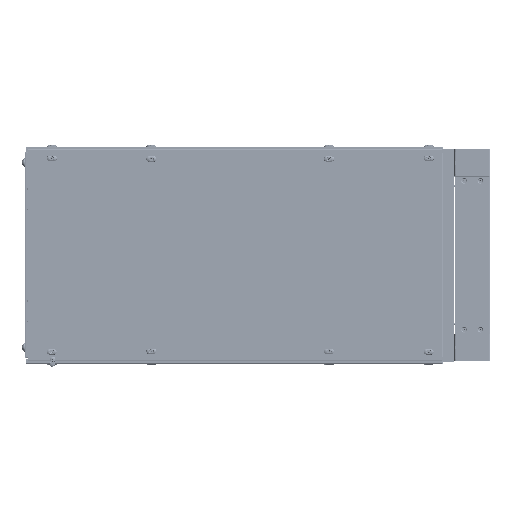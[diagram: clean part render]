
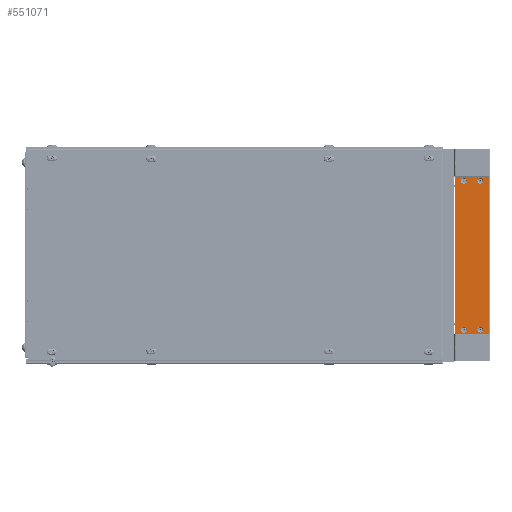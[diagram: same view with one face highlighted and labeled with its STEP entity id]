
A CAD part, left-side view. The second image highlights one B-rep face of the part: STEP entity #551071.
In plain terms, the highlighted planar face has unit normal (-1, 0, 0) as drawn and (0, -1, 0) by its records, which use the part's own axes.
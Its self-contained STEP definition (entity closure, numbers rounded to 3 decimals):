
#5371 = EDGE_LOOP ( 'NONE', ( #432263, #157245 ) ) ;
#10639 = VERTEX_POINT ( 'NONE', #167506 ) ;
#10795 = CIRCLE ( 'NONE', #638047, 8.743 ) ;
#12759 = VECTOR ( 'NONE', #634859, 1000. ) ;
#22331 = CARTESIAN_POINT ( 'NONE',  ( 441.04, 0., 0. ) ) ;
#27080 = EDGE_CURVE ( 'NONE', #10639, #395703, #502383, .T. ) ;
#41246 = FACE_OUTER_BOUND ( 'NONE', #349824, .T. ) ;
#41895 = DIRECTION ( 'NONE',  ( -1., 0., 0. ) ) ;
#43073 = DIRECTION ( 'NONE',  ( 0., 0., 1. ) ) ;
#44680 = DIRECTION ( 'NONE',  ( 1., 0., 0. ) ) ;
#46625 = ORIENTED_EDGE ( 'NONE', *, *, #107949, .F. ) ;
#49188 = VERTEX_POINT ( 'NONE', #139219 ) ;
#71023 = VERTEX_POINT ( 'NONE', #308824 ) ;
#80626 = AXIS2_PLACEMENT_3D ( 'NONE', #89073, #356572, #451566 ) ;
#82364 = EDGE_CURVE ( 'NONE', #506431, #49188, #588758, .T. ) ;
#86003 = ORIENTED_EDGE ( 'NONE', *, *, #489209, .F. ) ;
#87710 = DIRECTION ( 'NONE',  ( 0., 0., -1. ) ) ;
#89073 = CARTESIAN_POINT ( 'NONE',  ( 430.015, 0., -71.25 ) ) ;
#98815 = DIRECTION ( 'NONE',  ( 0., 0., -1. ) ) ;
#107949 = EDGE_CURVE ( 'NONE', #387935, #247869, #512173, .T. ) ;
#110319 = CIRCLE ( 'NONE', #651491, 8.743 ) ;
#114301 = ORIENTED_EDGE ( 'NONE', *, *, #311408, .F. ) ;
#124664 = EDGE_LOOP ( 'NONE', ( #238864, #432485 ) ) ;
#131891 = CARTESIAN_POINT ( 'NONE',  ( 11.025, 0., -71.25 ) ) ;
#133057 = LINE ( 'NONE', #593815, #603946 ) ;
#139219 = CARTESIAN_POINT ( 'NONE',  ( 430.015, 0., -33.496 ) ) ;
#153006 = CARTESIAN_POINT ( 'NONE',  ( 0., 0., 0. ) ) ;
#157245 = ORIENTED_EDGE ( 'NONE', *, *, #231957, .F. ) ;
#167506 = CARTESIAN_POINT ( 'NONE',  ( 430.015, 0., -79.993 ) ) ;
#189646 = ORIENTED_EDGE ( 'NONE', *, *, #528181, .F. ) ;
#194597 = EDGE_CURVE ( 'NONE', #634578, #602993, #238547, .T. ) ;
#211162 = VERTEX_POINT ( 'NONE', #385614 ) ;
#212721 = EDGE_CURVE ( 'NONE', #71023, #211162, #637643, .T. ) ;
#231957 = EDGE_CURVE ( 'NONE', #602993, #634578, #561821, .T. ) ;
#234654 = DIRECTION ( 'NONE',  ( 0., 0., -1. ) ) ;
#238547 = CIRCLE ( 'NONE', #638993, 8.246 ) ;
#238864 = ORIENTED_EDGE ( 'NONE', *, *, #82364, .F. ) ;
#239687 = CARTESIAN_POINT ( 'NONE',  ( 430.015, 0., -25.25 ) ) ;
#241526 = DIRECTION ( 'NONE',  ( 0., 0., 1. ) ) ;
#247869 = VERTEX_POINT ( 'NONE', #22331 ) ;
#247901 = FACE_BOUND ( 'NONE', #5371, .T. ) ;
#249385 = CARTESIAN_POINT ( 'NONE',  ( 0., 0., -96.5 ) ) ;
#261288 = PLANE ( 'NONE',  #428720 ) ;
#284076 = CARTESIAN_POINT ( 'NONE',  ( 430.015, 0., -17.004 ) ) ;
#284274 = VECTOR ( 'NONE', #44680, 1000. ) ;
#285029 = CARTESIAN_POINT ( 'NONE',  ( 11.025, 0., -25.25 ) ) ;
#296725 = AXIS2_PLACEMENT_3D ( 'NONE', #239687, #392235, #43073 ) ;
#298756 = CARTESIAN_POINT ( 'NONE',  ( 0., 0., -96.5 ) ) ;
#308819 = FACE_BOUND ( 'NONE', #124664, .T. ) ;
#308824 = CARTESIAN_POINT ( 'NONE',  ( 11.025, 0., -79.993 ) ) ;
#311408 = EDGE_CURVE ( 'NONE', #395703, #10639, #10795, .T. ) ;
#325339 = EDGE_CURVE ( 'NONE', #49188, #506431, #485480, .T. ) ;
#329114 = ORIENTED_EDGE ( 'NONE', *, *, #27080, .F. ) ;
#340408 = CARTESIAN_POINT ( 'NONE',  ( 11.025, 0., -17.004 ) ) ;
#346857 = CARTESIAN_POINT ( 'NONE',  ( 0., 0., -96.5 ) ) ;
#349164 = DIRECTION ( 'NONE',  ( 0., -1., 0. ) ) ;
#349693 = EDGE_CURVE ( 'NONE', #388041, #387935, #594046, .T. ) ;
#349824 = EDGE_LOOP ( 'NONE', ( #513155, #86003, #189646, #46625 ) ) ;
#352916 = FACE_BOUND ( 'NONE', #546160, .T. ) ;
#356572 = DIRECTION ( 'NONE',  ( 0., -1., 0. ) ) ;
#364221 = DIRECTION ( 'NONE',  ( 0., 0., 1. ) ) ;
#385614 = CARTESIAN_POINT ( 'NONE',  ( 11.025, 0., -62.507 ) ) ;
#387935 = VERTEX_POINT ( 'NONE', #652695 ) ;
#388041 = VERTEX_POINT ( 'NONE', #249385 ) ;
#388250 = ORIENTED_EDGE ( 'NONE', *, *, #416493, .F. ) ;
#392235 = DIRECTION ( 'NONE',  ( 0., -1., 0. ) ) ;
#395703 = VERTEX_POINT ( 'NONE', #501266 ) ;
#395852 = DIRECTION ( 'NONE',  ( 0., -1., 0. ) ) ;
#407526 = CARTESIAN_POINT ( 'NONE',  ( 441.04, 0., -96.5 ) ) ;
#416493 = EDGE_CURVE ( 'NONE', #211162, #71023, #110319, .T. ) ;
#428720 = AXIS2_PLACEMENT_3D ( 'NONE', #298756, #569577, #98815 ) ;
#432180 = AXIS2_PLACEMENT_3D ( 'NONE', #285029, #349164, #545829 ) ;
#432263 = ORIENTED_EDGE ( 'NONE', *, *, #194597, .F. ) ;
#432485 = ORIENTED_EDGE ( 'NONE', *, *, #325339, .F. ) ;
#446707 = CARTESIAN_POINT ( 'NONE',  ( 11.025, 0., -25.25 ) ) ;
#451566 = DIRECTION ( 'NONE',  ( 0., 0., 1. ) ) ;
#452564 = CARTESIAN_POINT ( 'NONE',  ( 430.015, 0., -71.25 ) ) ;
#467344 = VECTOR ( 'NONE', #41895, 1000. ) ;
#467988 = FACE_BOUND ( 'NONE', #642287, .T. ) ;
#485480 = CIRCLE ( 'NONE', #582641, 8.246 ) ;
#489209 = EDGE_CURVE ( 'NONE', #515965, #388041, #550171, .T. ) ;
#501266 = CARTESIAN_POINT ( 'NONE',  ( 430.015, 0., -62.507 ) ) ;
#502383 = CIRCLE ( 'NONE', #80626, 8.743 ) ;
#506431 = VERTEX_POINT ( 'NONE', #284076 ) ;
#512173 = LINE ( 'NONE', #153006, #284274 ) ;
#513155 = ORIENTED_EDGE ( 'NONE', *, *, #349693, .F. ) ;
#515965 = VERTEX_POINT ( 'NONE', #407526 ) ;
#520094 = DIRECTION ( 'NONE',  ( 0., -1., 0. ) ) ;
#528181 = EDGE_CURVE ( 'NONE', #247869, #515965, #133057, .T. ) ;
#542764 = ORIENTED_EDGE ( 'NONE', *, *, #212721, .F. ) ;
#543249 = CARTESIAN_POINT ( 'NONE',  ( 0., 0., 0. ) ) ;
#545829 = DIRECTION ( 'NONE',  ( 0., 0., -1. ) ) ;
#546160 = EDGE_LOOP ( 'NONE', ( #114301, #329114 ) ) ;
#549857 = DIRECTION ( 'NONE',  ( 0., -1., 0. ) ) ;
#550171 = LINE ( 'NONE', #346857, #467344 ) ;
#551071 = ADVANCED_FACE ( 'NONE', ( #352916, #308819, #41246, #247901, #467988 ), #261288, .T. ) ;
#561821 = CIRCLE ( 'NONE', #432180, 8.246 ) ;
#569577 = DIRECTION ( 'NONE',  ( 0., -1., 0. ) ) ;
#577170 = DIRECTION ( 'NONE',  ( 0., -1., 0. ) ) ;
#582641 = AXIS2_PLACEMENT_3D ( 'NONE', #651554, #549857, #241526 ) ;
#583424 = AXIS2_PLACEMENT_3D ( 'NONE', #131891, #605992, #87710 ) ;
#588758 = CIRCLE ( 'NONE', #296725, 8.246 ) ;
#593815 = CARTESIAN_POINT ( 'NONE',  ( 441.04, 0., 0. ) ) ;
#594046 = LINE ( 'NONE', #543249, #12759 ) ;
#602499 = DIRECTION ( 'NONE',  ( 0., 0., -1. ) ) ;
#602993 = VERTEX_POINT ( 'NONE', #340408 ) ;
#603946 = VECTOR ( 'NONE', #234654, 1000. ) ;
#605992 = DIRECTION ( 'NONE',  ( 0., -1., 0. ) ) ;
#612262 = CARTESIAN_POINT ( 'NONE',  ( 11.025, 0., -33.496 ) ) ;
#621393 = CARTESIAN_POINT ( 'NONE',  ( 11.025, 0., -71.25 ) ) ;
#628041 = DIRECTION ( 'NONE',  ( 0., 0., -1. ) ) ;
#634578 = VERTEX_POINT ( 'NONE', #612262 ) ;
#634859 = DIRECTION ( 'NONE',  ( 0., 0., 1. ) ) ;
#637643 = CIRCLE ( 'NONE', #583424, 8.743 ) ;
#638047 = AXIS2_PLACEMENT_3D ( 'NONE', #452564, #520094, #364221 ) ;
#638993 = AXIS2_PLACEMENT_3D ( 'NONE', #446707, #395852, #602499 ) ;
#642287 = EDGE_LOOP ( 'NONE', ( #542764, #388250 ) ) ;
#651491 = AXIS2_PLACEMENT_3D ( 'NONE', #621393, #577170, #628041 ) ;
#651554 = CARTESIAN_POINT ( 'NONE',  ( 430.015, 0., -25.25 ) ) ;
#652695 = CARTESIAN_POINT ( 'NONE',  ( 0., 0., 0. ) ) ;
